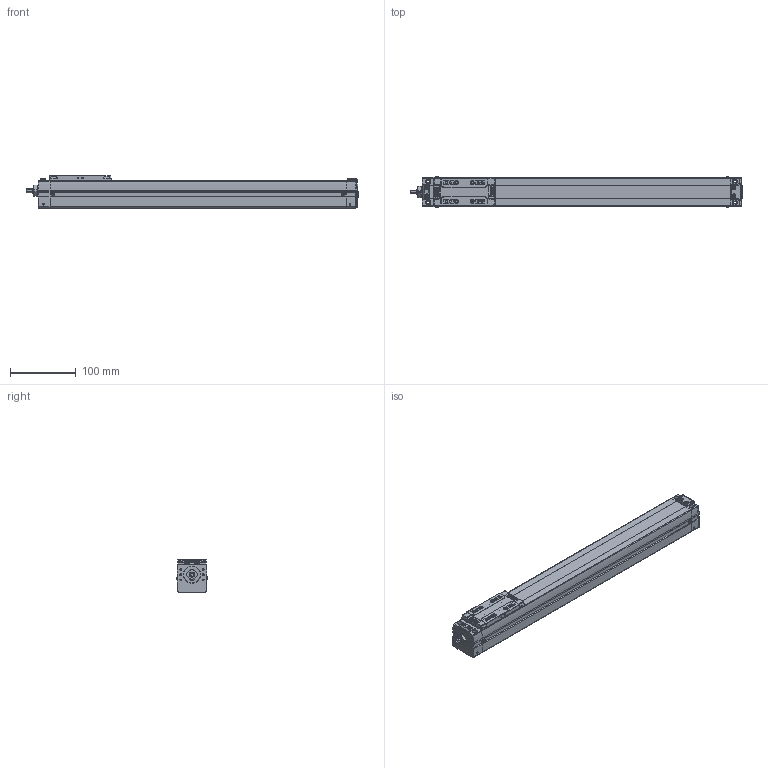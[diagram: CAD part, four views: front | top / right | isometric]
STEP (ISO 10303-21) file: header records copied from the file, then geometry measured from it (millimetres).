
FILE_DESCRIPTION(('STEP AP214'),'1');
FILE_NAME('Z:/Web/3D/SAN45/STP/SAN45ㅁㅁ-350.stp','2012-06-15T05:41:34',(' '),(' '),'Spatial InterOp 3D',' ',' ');
FILE_SCHEMA(('automotive_design'));
Length unit declared in the file: metre
Products named in the file (27): SAN45__-350; BODY-SAN45; REAR-SAN45; RRCV-SAN45; BHCS M3 x 6L; BHCS M3 X 6L; FRONT-SAN45; SHAFT; RN8 x 0.75; SSFX-SAN45; SLIDE-SAN45; SLCV-IM45; FHCS M3 x 6L
Assembly tree (26 placements, depth 3):
  SAN45__-350
    BODY-SAN45
    REAR-SAN45
      REAR-SAN45
      RRCV-SAN45
      BHCS M3 x 6L
      BHCS M3 X 6L
      BHCS M3 x 6L
      BHCS M3 x 6L
      BHCS M3 x 6L
      BHCS M3 x 6L
    FRONT-SAN45
      FRONT-SAN45
      SHAFT
      RN8 x 0.75
      SSFX-SAN45
      BHCS M3 x 6L
      BHCS M3 x 6L
      BHCS M3 x 6L
      BHCS M3 x 6L
    SLIDE-SAN45
      SLIDE-SAN45
      SLCV-IM45
      FHCS M3 x 6L
      FHCS M3 x 6L
      FHCS M3 x 6L
      FHCS M3 x 6L
Bounding box: 504.65 x 47.13 x 50 mm (x, y, z)
Volume: 896106.2 mm3; surface area: 137345.7 mm2
Topology: 23 solids, 23 shells, 1369 faces, 3518 edges, 2285 vertices
Faces by surface type: plane 838, cylinder 392, cone 67, bspline 38, sphere 22, torus 9, extrusion 3
Full cylindrical faces by diameter (mm): 0.376 x2, 0.47 x1, 1.137 x2, 1.421 x1, 1.665 x4, 2.081 x2, 2.2 x4, 2.5 x13, 3 x6, 3.193 x4, 3.3 x4, 3.4 x4, 3.5 x6, 3.991 x2, 4.2 x11, 4.5 x4, 5 x3, 6 x6, 7 x1, 8 x8, 13 x1, 15 x1, 19 x1
Entity records: 55527 total; most frequent: CARTESIAN_POINT 10964, DIRECTION 6893, ORIENTED_EDGE 6590, EDGE_CURVE 3295, AXIS2_PLACEMENT_3D 2315, VECTOR 2263, LINE 2260, VERTEX_POINT 2242
